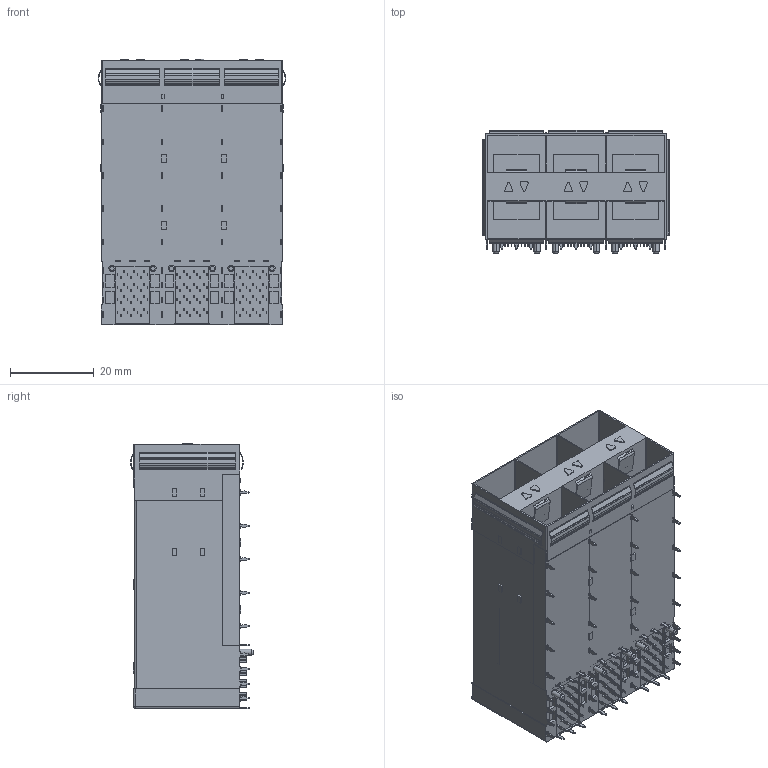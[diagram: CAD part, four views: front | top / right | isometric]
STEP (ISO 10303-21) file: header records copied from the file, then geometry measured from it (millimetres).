
FILE_DESCRIPTION (( 'STEP AP214' ), '1' );
FILE_NAME ('SFP28 2X3 内灯(上下) 3D.STEP', '2025-07-04T03:40:19', ( '桑三博客' ), ( 'Www.SangSan.Cn' ), 'SwSTEP 2.0', 'SolidWorks 2018', '' );
FILE_SCHEMA (( 'AUTOMOTIVE_DESIGN' ));
Length unit declared in the file: millimetre
Products named in the file (1): SFP28 2X3 囀腑(奻狟)  3D
Bounding box: 44.81 x 29.38 x 63.5 mm (x, y, z)
Volume: 35222.9 mm3; surface area: 26773.7 mm2
Topology: 1 solids, 1 shells, 2324 faces, 6507 edges, 4400 vertices
Faces by surface type: plane 1593, cylinder 717, cone 12, sphere 2
Entity records: 74877 total; most frequent: CARTESIAN_POINT 13230, ORIENTED_EDGE 13010, DIRECTION 12605, EDGE_CURVE 6505, VECTOR 5055, LINE 5055, VERTEX_POINT 4400, AXIS2_PLACEMENT_3D 3775
